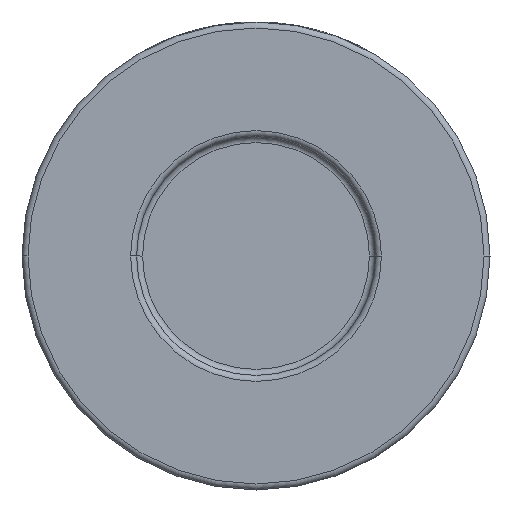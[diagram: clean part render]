
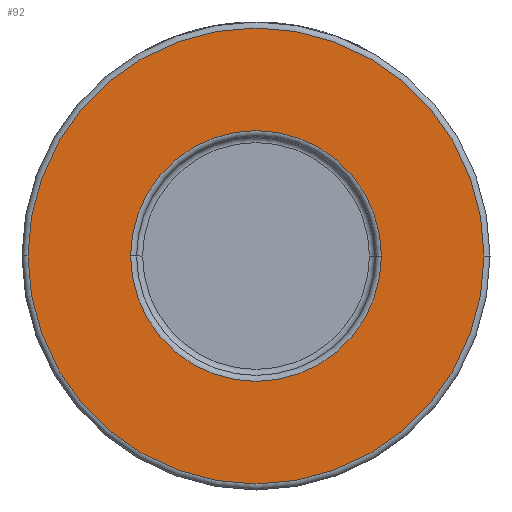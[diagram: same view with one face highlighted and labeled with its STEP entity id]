
A CAD part, front view. The second image highlights one B-rep face of the part: STEP entity #92.
In plain terms, the highlighted planar face has unit normal (0, -1, 0).
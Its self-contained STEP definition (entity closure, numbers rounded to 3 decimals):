
#92 = ADVANCED_FACE ( 'NONE', ( #4312, #4353 ), #1581, .T. ) ;
#175 = CARTESIAN_POINT ( 'NONE',  ( 0., -26., 0. ) ) ;
#258 = CARTESIAN_POINT ( 'NONE',  ( 0., -26., 0. ) ) ;
#269 = AXIS2_PLACEMENT_3D ( 'NONE', #258, #2034, #2669 ) ;
#383 = CARTESIAN_POINT ( 'NONE',  ( 20.9, -26., 0. ) ) ;
#654 = CARTESIAN_POINT ( 'NONE',  ( 0., -26., 0. ) ) ;
#1394 = EDGE_CURVE ( 'NONE', #1666, #3349, #2639, .T. ) ;
#1581 = PLANE ( 'NONE',  #2328 ) ;
#1610 = ORIENTED_EDGE ( 'NONE', *, *, #1394, .T. ) ;
#1666 = VERTEX_POINT ( 'NONE', #2739 ) ;
#1964 = DIRECTION ( 'NONE',  ( 1., 0., 0. ) ) ;
#1994 = VERTEX_POINT ( 'NONE', #2903 ) ;
#2023 = DIRECTION ( 'NONE',  ( 1., 0., 0. ) ) ;
#2034 = DIRECTION ( 'NONE',  ( 0., -1., 0. ) ) ;
#2098 = DIRECTION ( 'NONE',  ( 0., -1., 0. ) ) ;
#2145 = EDGE_CURVE ( 'NONE', #3349, #1666, #3094, .T. ) ;
#2263 = CARTESIAN_POINT ( 'NONE',  ( 39., -26., 0. ) ) ;
#2274 = ORIENTED_EDGE ( 'NONE', *, *, #2145, .T. ) ;
#2328 = AXIS2_PLACEMENT_3D ( 'NONE', #2263, #3024, #3394 ) ;
#2639 = CIRCLE ( 'NONE', #4115, 38. ) ;
#2669 = DIRECTION ( 'NONE',  ( 1., 0., 0. ) ) ;
#2710 = VERTEX_POINT ( 'NONE', #383 ) ;
#2739 = CARTESIAN_POINT ( 'NONE',  ( -38., -26., 0. ) ) ;
#2903 = CARTESIAN_POINT ( 'NONE',  ( -20.9, -26., 0. ) ) ;
#3024 = DIRECTION ( 'NONE',  ( 0., -1., 0. ) ) ;
#3033 = ORIENTED_EDGE ( 'NONE', *, *, #3859, .T. ) ;
#3094 = CIRCLE ( 'NONE', #269, 38. ) ;
#3171 = EDGE_LOOP ( 'NONE', ( #2274, #1610 ) ) ;
#3244 = EDGE_CURVE ( 'NONE', #1994, #2710, #3977, .T. ) ;
#3349 = VERTEX_POINT ( 'NONE', #3736 ) ;
#3362 = DIRECTION ( 'NONE',  ( 0., 1., 0. ) ) ;
#3381 = AXIS2_PLACEMENT_3D ( 'NONE', #4380, #4447, #1964 ) ;
#3394 = DIRECTION ( 'NONE',  ( 1., 0., 0. ) ) ;
#3736 = CARTESIAN_POINT ( 'NONE',  ( 38., -26., 0. ) ) ;
#3797 = EDGE_LOOP ( 'NONE', ( #3033, #4379 ) ) ;
#3859 = EDGE_CURVE ( 'NONE', #2710, #1994, #4287, .T. ) ;
#3977 = CIRCLE ( 'NONE', #3381, 20.9 ) ;
#4115 = AXIS2_PLACEMENT_3D ( 'NONE', #654, #2098, #2023 ) ;
#4287 = CIRCLE ( 'NONE', #4430, 20.9 ) ;
#4312 = FACE_BOUND ( 'NONE', #3797, .T. ) ;
#4353 = FACE_OUTER_BOUND ( 'NONE', #3171, .T. ) ;
#4379 = ORIENTED_EDGE ( 'NONE', *, *, #3244, .T. ) ;
#4380 = CARTESIAN_POINT ( 'NONE',  ( 0., -26., 0. ) ) ;
#4391 = DIRECTION ( 'NONE',  ( 1., 0., 0. ) ) ;
#4430 = AXIS2_PLACEMENT_3D ( 'NONE', #175, #3362, #4391 ) ;
#4447 = DIRECTION ( 'NONE',  ( 0., 1., 0. ) ) ;
